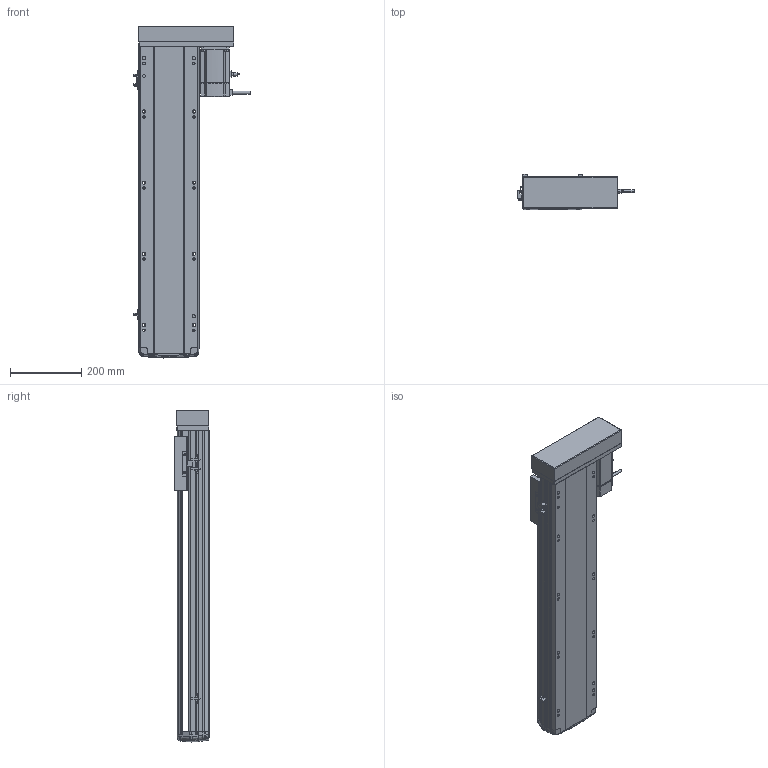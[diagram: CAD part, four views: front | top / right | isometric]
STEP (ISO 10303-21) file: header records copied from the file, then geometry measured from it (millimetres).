
FILE_DESCRIPTION (( 'STEP AP214' ), '1' );
FILE_NAME ('RTH17-XX-650-L-M75-C4.STEP', '2025-10-24T10:33:20', ( '' ), ( '' ), 'SwSTEP 2.0', 'SolidWorks 2018', '' );
FILE_SCHEMA (( 'AUTOMOTIVE_DESIGN' ));
Length unit declared in the file: millimetre
Products named in the file (10): N_RTH17-M-007上盖^RTH17-XX-XX-L-M75-C4（方程式）; RTH17-XX-650-L-M75-C4; N_RTH17-GY-001P^RTH17-XX-XX-L-M75-C4（方程式）; N_RTH-L-012 感应片(外置)^RTH17-XX-XX-L-M75-C4（方程式）; N_RTH17-E-004丝杆螺母连接座^RTH17-XX-XX-L-M75-C4（方程式）; N_RTH17-L-018盖子^RTH17-XX-XX-L-M75-C4（方程式）; N_M75^RTH17-XX-XX-L-M75-C4（方程式）; N_OMRON EE-SX672 換覜ん^RTH17-XX-XX-L-M75-C4ㄗ源最宒ㄘ; N_RTH17-M-011底座^RTH17-XX-XX-L-M75-C4（方程式）; N_RTH17-L-008-P75电机安装板左转折^RTH17-XX-XX-L-M75-C4（方程式）
Assembly tree (11 placements, depth 2):
  RTH17-XX-650-L-M75-C4
    N_RTH17-M-011底座^RTH17-XX-XX-L-M75-C4（方程式）
    N_RTH17-M-007上盖^RTH17-XX-XX-L-M75-C4（方程式）
    N_M75^RTH17-XX-XX-L-M75-C4（方程式）
    N_OMRON EE-SX672 換覜ん^RTH17-XX-XX-L-M75-C4ㄗ源最宒ㄘ  x3
    N_RTH-L-012 感应片(外置)^RTH17-XX-XX-L-M75-C4（方程式）
    N_RTH17-L-008-P75电机安装板左转折^RTH17-XX-XX-L-M75-C4（方程式）
    N_RTH17-L-018盖子^RTH17-XX-XX-L-M75-C4（方程式）
    N_RTH17-E-004丝杆螺母连接座^RTH17-XX-XX-L-M75-C4（方程式）
    N_RTH17-GY-001P^RTH17-XX-XX-L-M75-C4（方程式）
Bounding box: 326.7 x 97 x 932.99 mm (x, y, z)
Volume: 8836730.7 mm3; surface area: 1107120.1 mm2
Topology: 13 solids, 15 shells, 1741 faces, 4781 edges, 3094 vertices
Faces by surface type: plane 831, cylinder 496, bspline 377, cone 28, torus 9
Entity records: 50545 total; most frequent: CARTESIAN_POINT 20241, ORIENTED_EDGE 6586, DIRECTION 5473, EDGE_CURVE 3297, VERTEX_POINT 2130, AXIS2_PLACEMENT_3D 1837, LINE 1799, VECTOR 1799
